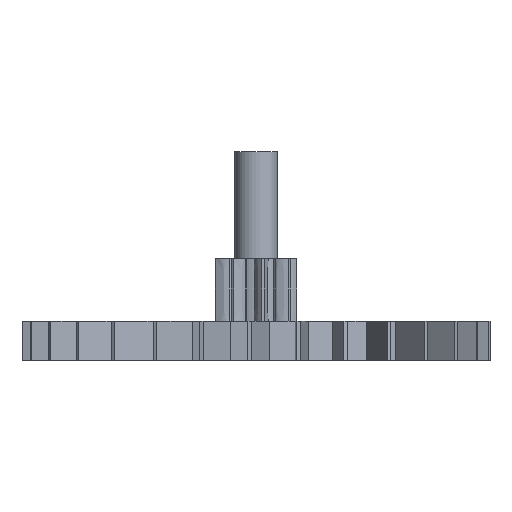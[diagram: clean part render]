
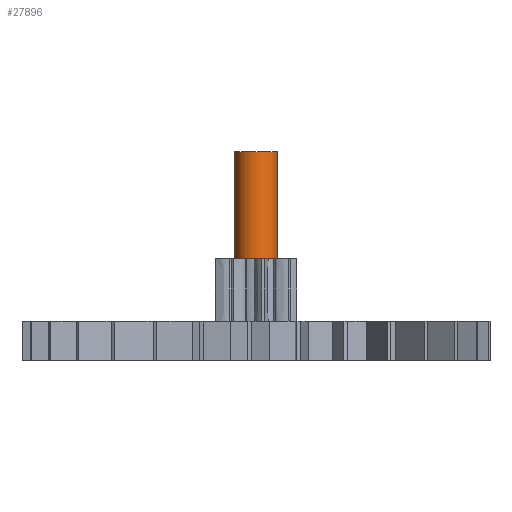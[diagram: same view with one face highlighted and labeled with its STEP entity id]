
A CAD part, front view. The second image highlights one B-rep face of the part: STEP entity #27896.
In plain terms, the highlighted cylindrical face has radius 2.7 mm (diameter 5.4 mm), a full revolution.
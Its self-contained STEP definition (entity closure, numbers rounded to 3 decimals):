
#24272 = PLANE('',#24273);
#24273 = AXIS2_PLACEMENT_3D('',#24274,#24275,#24276);
#24274 = CARTESIAN_POINT('',(0.,0.,26.7));
#24275 = DIRECTION('',(0.,0.,1.));
#24276 = DIRECTION('',(1.,0.,-0.));
#25294 = PLANE('',#25295);
#25295 = AXIS2_PLACEMENT_3D('',#25296,#25297,#25298);
#25296 = CARTESIAN_POINT('',(0.,0.,13.));
#25297 = DIRECTION('',(0.,0.,1.));
#25298 = DIRECTION('',(1.,0.,-0.));
#27788 = EDGE_CURVE('',#27789,#27789,#27791,.T.);
#27789 = VERTEX_POINT('',#27790);
#27790 = CARTESIAN_POINT('',(2.7,0.,26.7));
#27791 = SURFACE_CURVE('',#27792,(#27797,#27804),.PCURVE_S1.);
#27792 = CIRCLE('',#27793,2.7);
#27793 = AXIS2_PLACEMENT_3D('',#27794,#27795,#27796);
#27794 = CARTESIAN_POINT('',(0.,0.,26.7));
#27795 = DIRECTION('',(0.,0.,1.));
#27796 = DIRECTION('',(1.,0.,-0.));
#27797 = PCURVE('',#24272,#27798);
#27798 = DEFINITIONAL_REPRESENTATION('',(#27799),#27803);
#27799 = CIRCLE('',#27800,2.7);
#27800 = AXIS2_PLACEMENT_2D('',#27801,#27802);
#27801 = CARTESIAN_POINT('',(0.,0.));
#27802 = DIRECTION('',(1.,0.));
#27803 = ( GEOMETRIC_REPRESENTATION_CONTEXT(2) 
PARAMETRIC_REPRESENTATION_CONTEXT() REPRESENTATION_CONTEXT('2D SPACE',''
  ) );
#27804 = PCURVE('',#27805,#27810);
#27805 = CYLINDRICAL_SURFACE('',#27806,2.7);
#27806 = AXIS2_PLACEMENT_3D('',#27807,#27808,#27809);
#27807 = CARTESIAN_POINT('',(0.,0.,12.9));
#27808 = DIRECTION('',(0.,0.,1.));
#27809 = DIRECTION('',(1.,0.,-0.));
#27810 = DEFINITIONAL_REPRESENTATION('',(#27811),#27815);
#27811 = LINE('',#27812,#27813);
#27812 = CARTESIAN_POINT('',(0.,13.8));
#27813 = VECTOR('',#27814,1.);
#27814 = DIRECTION('',(1.,0.));
#27815 = ( GEOMETRIC_REPRESENTATION_CONTEXT(2) 
PARAMETRIC_REPRESENTATION_CONTEXT() REPRESENTATION_CONTEXT('2D SPACE',''
  ) );
#27873 = EDGE_CURVE('',#27874,#27874,#27876,.T.);
#27874 = VERTEX_POINT('',#27875);
#27875 = CARTESIAN_POINT('',(2.7,0.,13.));
#27876 = SURFACE_CURVE('',#27877,(#27882,#27889),.PCURVE_S1.);
#27877 = CIRCLE('',#27878,2.7);
#27878 = AXIS2_PLACEMENT_3D('',#27879,#27880,#27881);
#27879 = CARTESIAN_POINT('',(0.,0.,13.));
#27880 = DIRECTION('',(0.,0.,1.));
#27881 = DIRECTION('',(1.,0.,-0.));
#27882 = PCURVE('',#25294,#27883);
#27883 = DEFINITIONAL_REPRESENTATION('',(#27884),#27888);
#27884 = CIRCLE('',#27885,2.7);
#27885 = AXIS2_PLACEMENT_2D('',#27886,#27887);
#27886 = CARTESIAN_POINT('',(0.,0.));
#27887 = DIRECTION('',(1.,0.));
#27888 = ( GEOMETRIC_REPRESENTATION_CONTEXT(2) 
PARAMETRIC_REPRESENTATION_CONTEXT() REPRESENTATION_CONTEXT('2D SPACE',''
  ) );
#27889 = PCURVE('',#27805,#27890);
#27890 = DEFINITIONAL_REPRESENTATION('',(#27891),#27895);
#27891 = LINE('',#27892,#27893);
#27892 = CARTESIAN_POINT('',(0.,0.1));
#27893 = VECTOR('',#27894,1.);
#27894 = DIRECTION('',(1.,0.));
#27895 = ( GEOMETRIC_REPRESENTATION_CONTEXT(2) 
PARAMETRIC_REPRESENTATION_CONTEXT() REPRESENTATION_CONTEXT('2D SPACE',''
  ) );
#27896 = ADVANCED_FACE('',(#27897),#27805,.T.);
#27897 = FACE_BOUND('',#27898,.T.);
#27898 = EDGE_LOOP('',(#27899,#27920,#27921,#27922));
#27899 = ORIENTED_EDGE('',*,*,#27900,.T.);
#27900 = EDGE_CURVE('',#27874,#27789,#27901,.T.);
#27901 = SEAM_CURVE('',#27902,(#27906,#27913),.PCURVE_S1.);
#27902 = LINE('',#27903,#27904);
#27903 = CARTESIAN_POINT('',(2.7,0.,12.9));
#27904 = VECTOR('',#27905,1.);
#27905 = DIRECTION('',(0.,0.,1.));
#27906 = PCURVE('',#27805,#27907);
#27907 = DEFINITIONAL_REPRESENTATION('',(#27908),#27912);
#27908 = LINE('',#27909,#27910);
#27909 = CARTESIAN_POINT('',(6.283,-0.));
#27910 = VECTOR('',#27911,1.);
#27911 = DIRECTION('',(0.,1.));
#27912 = ( GEOMETRIC_REPRESENTATION_CONTEXT(2) 
PARAMETRIC_REPRESENTATION_CONTEXT() REPRESENTATION_CONTEXT('2D SPACE',''
  ) );
#27913 = PCURVE('',#27805,#27914);
#27914 = DEFINITIONAL_REPRESENTATION('',(#27915),#27919);
#27915 = LINE('',#27916,#27917);
#27916 = CARTESIAN_POINT('',(0.,-0.));
#27917 = VECTOR('',#27918,1.);
#27918 = DIRECTION('',(0.,1.));
#27919 = ( GEOMETRIC_REPRESENTATION_CONTEXT(2) 
PARAMETRIC_REPRESENTATION_CONTEXT() REPRESENTATION_CONTEXT('2D SPACE',''
  ) );
#27920 = ORIENTED_EDGE('',*,*,#27788,.F.);
#27921 = ORIENTED_EDGE('',*,*,#27900,.F.);
#27922 = ORIENTED_EDGE('',*,*,#27873,.T.);
